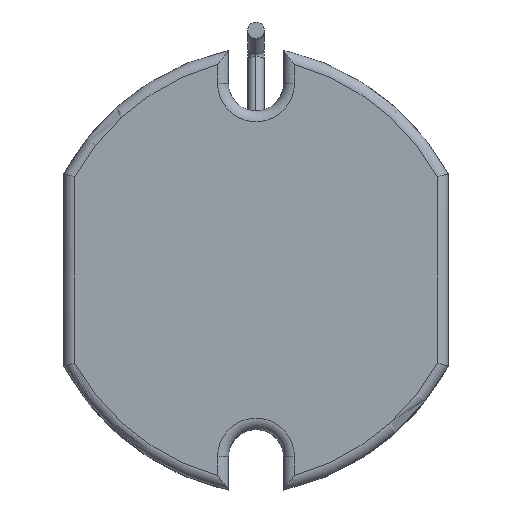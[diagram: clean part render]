
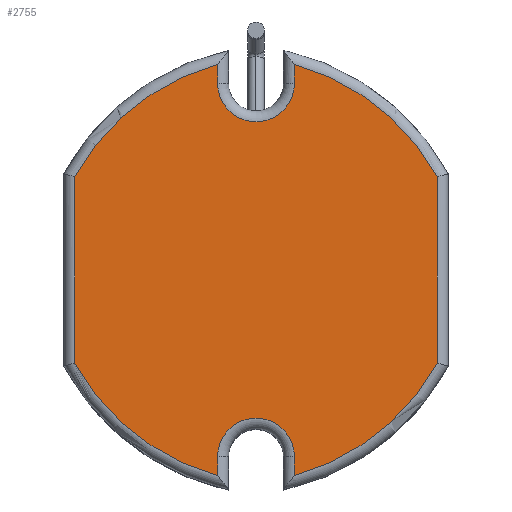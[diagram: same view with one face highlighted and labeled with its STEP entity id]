
A CAD part, top view. The second image highlights one B-rep face of the part: STEP entity #2755.
In plain terms, the highlighted planar face has unit normal (0, 0, 1).
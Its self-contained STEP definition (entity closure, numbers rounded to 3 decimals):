
#544 = CARTESIAN_POINT ( 'NONE',  ( -0.35, -1.873, 2.5 ) ) ;
#1407 = VERTEX_POINT ( 'NONE', #7565 ) ;
#1427 = EDGE_CURVE ( 'NONE', #2396, #1407, #13142, .T. ) ;
#1563 = CIRCLE ( 'NONE', #9133, 0.35 ) ;
#1647 = CARTESIAN_POINT ( 'NONE',  ( -1.65, -0.875, 2.5 ) ) ;
#1733 = CARTESIAN_POINT ( 'NONE',  ( -0.35, -1.7, 2.5 ) ) ;
#1923 = CARTESIAN_POINT ( 'NONE',  ( 0., 0., 2.5 ) ) ;
#2396 = VERTEX_POINT ( 'NONE', #7813 ) ;
#2694 = CARTESIAN_POINT ( 'NONE',  ( -0.215, -0.183, 2.5 ) ) ;
#2755 = ADVANCED_FACE ( 'NONE', ( #16568 ), #25623, .T. ) ;
#2853 = DIRECTION ( 'NONE',  ( 0., 0., -1. ) ) ;
#3339 = ORIENTED_EDGE ( 'NONE', *, *, #21870, .T. ) ;
#3484 = DIRECTION ( 'NONE',  ( 0., 0., 1. ) ) ;
#3804 = VERTEX_POINT ( 'NONE', #16267 ) ;
#4259 = ORIENTED_EDGE ( 'NONE', *, *, #13350, .T. ) ;
#4673 = VECTOR ( 'NONE', #25837, 1000. ) ;
#4818 = CARTESIAN_POINT ( 'NONE',  ( 0., -1.7, 2.5 ) ) ;
#5091 = EDGE_CURVE ( 'NONE', #7853, #19852, #18826, .T. ) ;
#5488 = LINE ( 'NONE', #14014, #4673 ) ;
#5508 = AXIS2_PLACEMENT_3D ( 'NONE', #20036, #11673, #26590 ) ;
#5574 = DIRECTION ( 'NONE',  ( 1., 0., 0. ) ) ;
#5601 = ORIENTED_EDGE ( 'NONE', *, *, #16394, .T. ) ;
#5618 = AXIS2_PLACEMENT_3D ( 'NONE', #24685, #3484, #5574 ) ;
#5847 = DIRECTION ( 'NONE',  ( 0., 1., 0. ) ) ;
#6108 = CARTESIAN_POINT ( 'NONE',  ( -0.35, -1.7, 2.5 ) ) ;
#6186 = EDGE_CURVE ( 'NONE', #3804, #6586, #17912, .T. ) ;
#6586 = VERTEX_POINT ( 'NONE', #10702 ) ;
#6860 = ORIENTED_EDGE ( 'NONE', *, *, #21021, .T. ) ;
#7031 = EDGE_LOOP ( 'NONE', ( #21866, #20251, #12964, #13164, #26139, #3339, #17769, #6860, #23558, #4259, #24417, #5601 ) ) ;
#7565 = CARTESIAN_POINT ( 'NONE',  ( -1.65, 0.849, 2.5 ) ) ;
#7761 = AXIS2_PLACEMENT_3D ( 'NONE', #24577, #16070, #22483 ) ;
#7813 = CARTESIAN_POINT ( 'NONE',  ( -0.35, 1.873, 2.5 ) ) ;
#7853 = VERTEX_POINT ( 'NONE', #26830 ) ;
#7855 = VECTOR ( 'NONE', #8158, 1000. ) ;
#8158 = DIRECTION ( 'NONE',  ( 0., 1., 0. ) ) ;
#9003 = CARTESIAN_POINT ( 'NONE',  ( 0.35, -1.7, 2.5 ) ) ;
#9133 = AXIS2_PLACEMENT_3D ( 'NONE', #4818, #2853, #13600 ) ;
#9629 = VECTOR ( 'NONE', #5847, 1000. ) ;
#10055 = LINE ( 'NONE', #18563, #24814 ) ;
#10605 = VERTEX_POINT ( 'NONE', #15710 ) ;
#10702 = CARTESIAN_POINT ( 'NONE',  ( 1.65, -0.849, 2.5 ) ) ;
#11081 = DIRECTION ( 'NONE',  ( 0., 0., 1. ) ) ;
#11220 = DIRECTION ( 'NONE',  ( 1., 0., 0. ) ) ;
#11673 = DIRECTION ( 'NONE',  ( 0., 0., -1. ) ) ;
#11868 = EDGE_CURVE ( 'NONE', #14675, #10605, #26024, .T. ) ;
#12074 = LINE ( 'NONE', #1733, #7855 ) ;
#12261 = LINE ( 'NONE', #1647, #18798 ) ;
#12394 = DIRECTION ( 'NONE',  ( 0., 0., 1. ) ) ;
#12848 = EDGE_CURVE ( 'NONE', #22477, #23143, #1563, .T. ) ;
#12964 = ORIENTED_EDGE ( 'NONE', *, *, #16748, .T. ) ;
#13142 = CIRCLE ( 'NONE', #7761, 2.132 ) ;
#13164 = ORIENTED_EDGE ( 'NONE', *, *, #17628, .T. ) ;
#13350 = EDGE_CURVE ( 'NONE', #19852, #14675, #5488, .T. ) ;
#13600 = DIRECTION ( 'NONE',  ( 1., 0., 0. ) ) ;
#14014 = CARTESIAN_POINT ( 'NONE',  ( 0.35, 1.7, 2.5 ) ) ;
#14188 = CARTESIAN_POINT ( 'NONE',  ( 0.35, 1.873, 2.5 ) ) ;
#14675 = VERTEX_POINT ( 'NONE', #20286 ) ;
#15710 = CARTESIAN_POINT ( 'NONE',  ( -0.35, 1.7, 2.5 ) ) ;
#16070 = DIRECTION ( 'NONE',  ( 0., 0., 1. ) ) ;
#16267 = CARTESIAN_POINT ( 'NONE',  ( 0.35, -1.873, 2.5 ) ) ;
#16394 = EDGE_CURVE ( 'NONE', #10605, #2396, #18693, .T. ) ;
#16568 = FACE_OUTER_BOUND ( 'NONE', #7031, .T. ) ;
#16587 = AXIS2_PLACEMENT_3D ( 'NONE', #19227, #21318, #27320 ) ;
#16748 = EDGE_CURVE ( 'NONE', #21626, #19423, #18559, .T. ) ;
#17628 = EDGE_CURVE ( 'NONE', #19423, #22477, #12074, .T. ) ;
#17769 = ORIENTED_EDGE ( 'NONE', *, *, #6186, .T. ) ;
#17912 = CIRCLE ( 'NONE', #16587, 2.132 ) ;
#18559 = CIRCLE ( 'NONE', #5618, 2.132 ) ;
#18563 = CARTESIAN_POINT ( 'NONE',  ( 1.65, 0., 2.5 ) ) ;
#18693 = LINE ( 'NONE', #27192, #9629 ) ;
#18798 = VECTOR ( 'NONE', #22427, 1000. ) ;
#18826 = CIRCLE ( 'NONE', #25503, 2.132 ) ;
#19090 = CARTESIAN_POINT ( 'NONE',  ( 0.35, 0., 2.5 ) ) ;
#19227 = CARTESIAN_POINT ( 'NONE',  ( -0.215, 0.183, 2.5 ) ) ;
#19246 = VECTOR ( 'NONE', #19499, 1000. ) ;
#19357 = LINE ( 'NONE', #19090, #19246 ) ;
#19423 = VERTEX_POINT ( 'NONE', #544 ) ;
#19499 = DIRECTION ( 'NONE',  ( 0., -1., 0. ) ) ;
#19794 = AXIS2_PLACEMENT_3D ( 'NONE', #1923, #12394, #21171 ) ;
#19852 = VERTEX_POINT ( 'NONE', #14188 ) ;
#20036 = CARTESIAN_POINT ( 'NONE',  ( 0., 1.7, 2.5 ) ) ;
#20251 = ORIENTED_EDGE ( 'NONE', *, *, #21368, .T. ) ;
#20286 = CARTESIAN_POINT ( 'NONE',  ( 0.35, 1.7, 2.5 ) ) ;
#20343 = CARTESIAN_POINT ( 'NONE',  ( -1.65, -0.849, 2.5 ) ) ;
#21021 = EDGE_CURVE ( 'NONE', #6586, #7853, #10055, .T. ) ;
#21171 = DIRECTION ( 'NONE',  ( 1., 0., 0. ) ) ;
#21318 = DIRECTION ( 'NONE',  ( 0., 0., 1. ) ) ;
#21368 = EDGE_CURVE ( 'NONE', #1407, #21626, #12261, .T. ) ;
#21626 = VERTEX_POINT ( 'NONE', #20343 ) ;
#21866 = ORIENTED_EDGE ( 'NONE', *, *, #1427, .T. ) ;
#21870 = EDGE_CURVE ( 'NONE', #23143, #3804, #19357, .T. ) ;
#22427 = DIRECTION ( 'NONE',  ( 0., -1., 0. ) ) ;
#22477 = VERTEX_POINT ( 'NONE', #6108 ) ;
#22483 = DIRECTION ( 'NONE',  ( 1., 0., 0. ) ) ;
#22874 = DIRECTION ( 'NONE',  ( 0., 1., 0. ) ) ;
#23143 = VERTEX_POINT ( 'NONE', #9003 ) ;
#23558 = ORIENTED_EDGE ( 'NONE', *, *, #5091, .T. ) ;
#24417 = ORIENTED_EDGE ( 'NONE', *, *, #11868, .T. ) ;
#24577 = CARTESIAN_POINT ( 'NONE',  ( 0.215, -0.183, 2.5 ) ) ;
#24685 = CARTESIAN_POINT ( 'NONE',  ( 0.215, 0.183, 2.5 ) ) ;
#24814 = VECTOR ( 'NONE', #22874, 1000. ) ;
#25503 = AXIS2_PLACEMENT_3D ( 'NONE', #2694, #11081, #11220 ) ;
#25623 = PLANE ( 'NONE',  #19794 ) ;
#25837 = DIRECTION ( 'NONE',  ( 0., -1., 0. ) ) ;
#26024 = CIRCLE ( 'NONE', #5508, 0.35 ) ;
#26139 = ORIENTED_EDGE ( 'NONE', *, *, #12848, .T. ) ;
#26590 = DIRECTION ( 'NONE',  ( 1., 0., 0. ) ) ;
#26830 = CARTESIAN_POINT ( 'NONE',  ( 1.65, 0.849, 2.5 ) ) ;
#27192 = CARTESIAN_POINT ( 'NONE',  ( -0.35, 0., 2.5 ) ) ;
#27320 = DIRECTION ( 'NONE',  ( 1., 0., 0. ) ) ;
